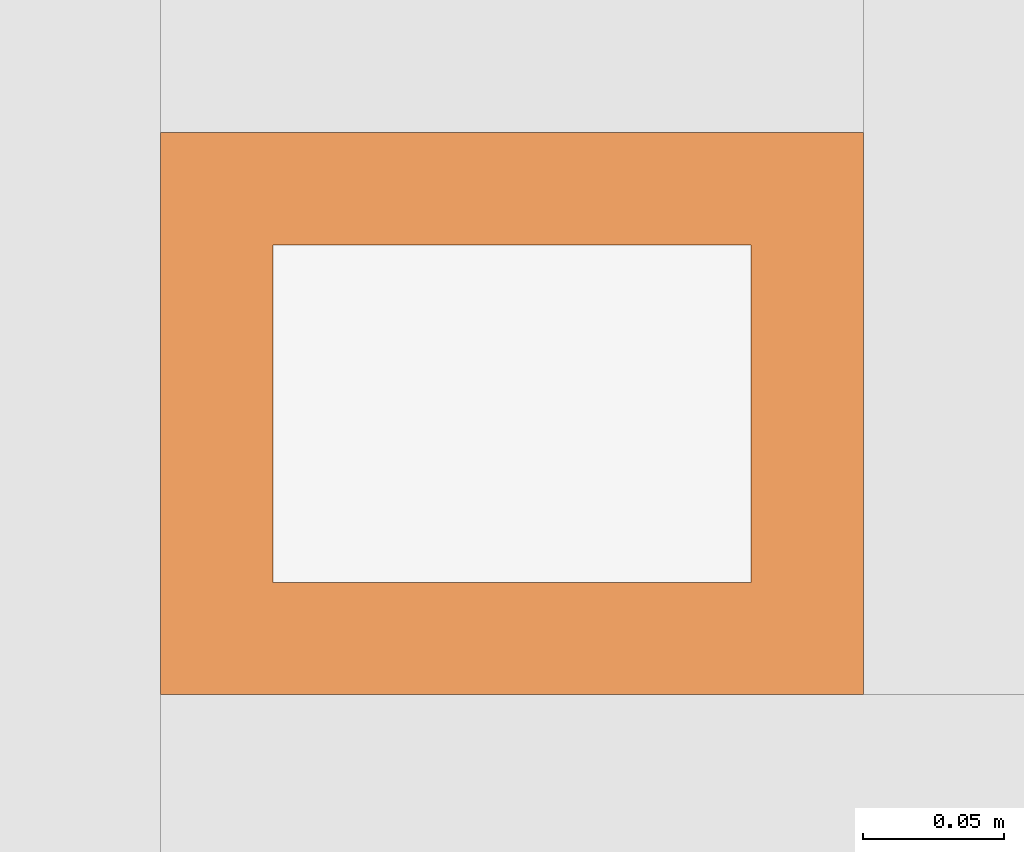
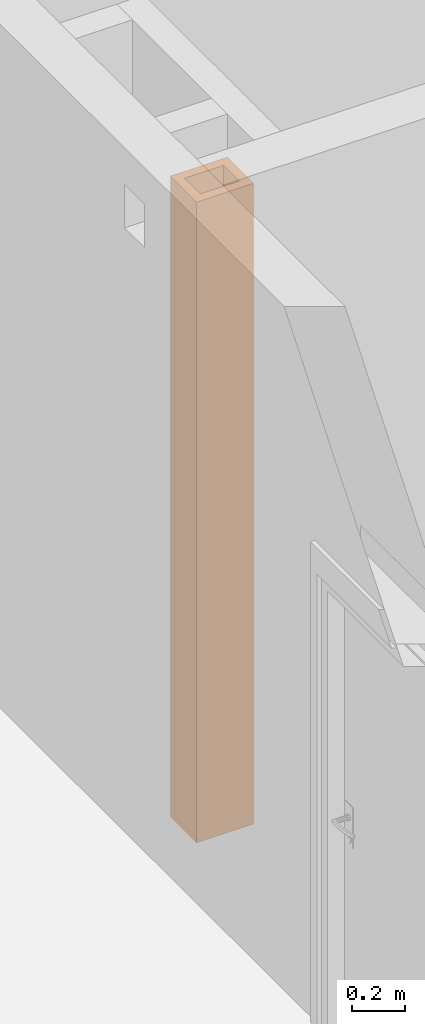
# One storey, part 19 of 25: 1 proxy.
"""IFC2X3 building model written with IfcOpenShell, lengths in millimetres."""

from ifc_helpers import new_model, entity, si_unit, converted_unit, derived_unit, money_unit, direction, frame, origin_with_axes, place, context, subcontext, project, spatial, faceted_brep, source, transform, mapped, type_object, element, save


model = new_model("IFC2X3")

# Units and contexts
model_context = context("Model", 3, precision=0.01, world=origin_with_axes(), true_north=direction((0.34421633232, 0.938890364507)))
body_context = subcontext(model_context, "Body", "Model", "MODEL_VIEW")
ifc_project = project(units=[si_unit("LENGTHUNIT", "METRE", prefix="MILLI"), si_unit("AREAUNIT", "SQUARE_METRE"), si_unit("VOLUMEUNIT", "CUBIC_METRE"), converted_unit("PLANEANGLEUNIT", "DEGREE", entity("IfcPlaneAngleMeasure", 0.0174532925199), si_unit("PLANEANGLEUNIT", "RADIAN"), dimensions=[0, 0, 0, 0, 0, 0, 0]), si_unit("SOLIDANGLEUNIT", "STERADIAN"), money_unit("USD"), converted_unit("TIMEUNIT", "Year", entity("IfcTimeMeasure", 31556926.0), si_unit("TIMEUNIT", "SECOND"), dimensions=[0, 0, 1, 0, 0, 0, 0]), si_unit("MASSUNIT", "GRAM", prefix="KILO"), si_unit("THERMODYNAMICTEMPERATUREUNIT", "DEGREE_CELSIUS"), si_unit("LUMINOUSINTENSITYUNIT", "LUMEN"), si_unit("ENERGYUNIT", "JOULE", prefix="MEGA"), derived_unit("THERMALCONDUCTANCEUNIT", [(si_unit("POWERUNIT", "WATT"), 1), (si_unit("LENGTHUNIT", "METRE"), -1), (si_unit("THERMODYNAMICTEMPERATUREUNIT", "KELVIN"), -1)]), derived_unit("SPECIFICHEATCAPACITYUNIT", [(si_unit("ENERGYUNIT", "JOULE"), 1), (si_unit("MASSUNIT", "GRAM", prefix="KILO"), -1), (si_unit("THERMODYNAMICTEMPERATUREUNIT", "KELVIN"), -1)]), derived_unit("MASSDENSITYUNIT", [(si_unit("MASSUNIT", "GRAM", prefix="KILO"), 1), (si_unit("VOLUMEUNIT", "CUBIC_METRE"), -1)])], contexts=[model_context])

# Site, building, storey
site_placement = place(None, origin_with_axes())
site = spatial("IfcSite", under=ifc_project, at=site_placement, Name="USTRONIE MORSKIE", CompositionType="ELEMENT")
building_placement = place(site_placement, origin_with_axes())
building = spatial("IfcBuilding", under=site, at=building_placement, Name="Budynek", CompositionType="ELEMENT")
storey_placement = place(building_placement, frame((0.0, 0.0, -3600.0), z_axis=(0.0, 0.0, 1.0), x_axis=(1.0, 0.0, 0.0)))
storey = spatial("IfcBuildingStorey", under=building, at=storey_placement, Name="GARAZ", CompositionType="ELEMENT", Elevation=-3600.0)

# Proxy
building_element_proxy_type = type_object("IfcBuildingElementProxyType", PredefinedType="NOTDEFINED")
shared_shape = source(origin_with_axes(), body_context, "Body", "Brep", [
    faceted_brep([(0.0, 0.0, 0.0), (200.0, 0.0, 0.0), (200.0, 0.0, 2970.0), (0.0, 0.0, 2970.0), (0.0, 250.0, 0.0), (200.0, 250.0, 0.0), (40.0, 210.0, 0.0), (40.0, 40.0, 0.0), (160.0, 40.0, 0.0), (160.0, 210.0, 0.0), (200.0, 250.0, 2970.0), (0.0, 250.0, 2970.0), (40.0, 210.0, 2970.0), (160.0, 210.0, 2970.0), (160.0, 40.0, 2970.0), (40.0, 40.0, 2970.0)], [[[0, 1, 2, 3]], [[0, 4, 5, 1], [6, 7, 8, 9]], [[1, 5, 10, 2]], [[3, 2, 10, 11], [12, 13, 14, 15]], [[4, 0, 3, 11]], [[5, 4, 11, 10]], [[7, 6, 12, 15]], [[8, 7, 15, 14]], [[9, 8, 14, 13]], [[6, 9, 13, 12]]]),
])
proxy_placement = place(storey_placement, frame((389757.920919, 730101.199036, 0.0), z_axis=(0.0, 0.0, 1.0), x_axis=(0.0, -1.0, 0.0)))
element("IfcBuildingElementProxy", 1, at=proxy_placement, inside=storey, type_object=building_element_proxy_type, Name="Obiekt-007", context=body_context, shape_type="MappedRepresentation", body=[
    mapped(shared_shape, transform((0.0, 0.0, 0.0))),
])

save(model, "model.ifc")
